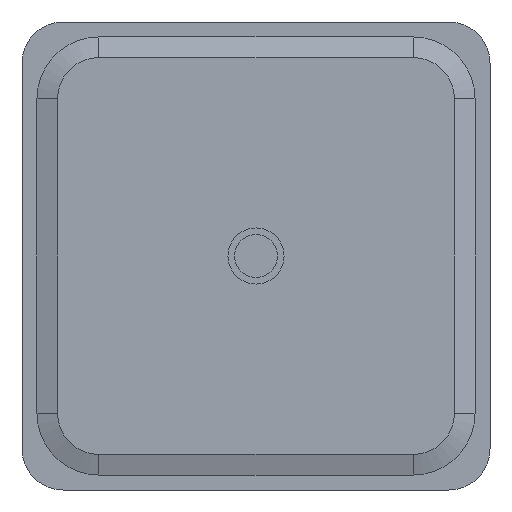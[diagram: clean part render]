
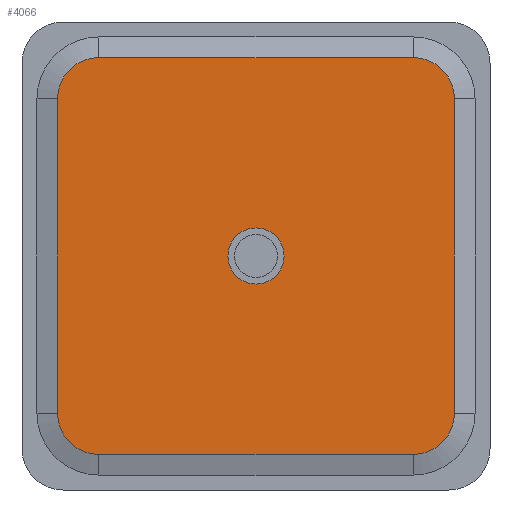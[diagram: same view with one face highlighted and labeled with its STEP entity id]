
A CAD part, front view. The second image highlights one B-rep face of the part: STEP entity #4066.
In plain terms, the highlighted planar face has unit normal (0, -1, 0).
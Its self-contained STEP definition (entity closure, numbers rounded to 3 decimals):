
#1=CARTESIAN_POINT('',(0.,0.,0.));
#2=DIRECTION('',(0.,-1.,0.));
#3=DIRECTION('',(-1.,0.,0.));
#4=AXIS2_PLACEMENT_3D('',#1,#2,#3);
#6=CARTESIAN_POINT('',(0.,0.,0.));
#7=DIRECTION('',(0.,-1.,0.));
#8=DIRECTION('',(1.,0.,0.));
#9=AXIS2_PLACEMENT_3D('',#6,#7,#8);
#11=DIRECTION('',(0.,0.,-1.));
#12=VECTOR('',#11,168.);
#13=CARTESIAN_POINT('',(-106.,0.,84.));
#14=LINE('',#13,#12);
#15=CARTESIAN_POINT('',(-84.,0.,84.));
#16=DIRECTION('',(0.,-1.,0.));
#17=DIRECTION('',(0.,0.,1.));
#18=AXIS2_PLACEMENT_3D('',#15,#16,#17);
#20=DIRECTION('',(-1.,0.,0.));
#21=VECTOR('',#20,168.);
#22=CARTESIAN_POINT('',(84.,0.,106.));
#23=LINE('',#22,#21);
#24=CARTESIAN_POINT('',(84.,0.,84.));
#25=DIRECTION('',(0.,-1.,0.));
#26=DIRECTION('',(1.,0.,0.));
#27=AXIS2_PLACEMENT_3D('',#24,#25,#26);
#29=DIRECTION('',(0.,0.,1.));
#30=VECTOR('',#29,168.);
#31=CARTESIAN_POINT('',(106.,0.,-84.));
#32=LINE('',#31,#30);
#33=CARTESIAN_POINT('',(84.,0.,-84.));
#34=DIRECTION('',(0.,-1.,0.));
#35=DIRECTION('',(0.,0.,-1.));
#36=AXIS2_PLACEMENT_3D('',#33,#34,#35);
#38=DIRECTION('',(1.,0.,0.));
#39=VECTOR('',#38,168.);
#40=CARTESIAN_POINT('',(-84.,0.,-106.));
#41=LINE('',#40,#39);
#42=CARTESIAN_POINT('',(-84.,0.,-84.));
#43=DIRECTION('',(0.,-1.,0.));
#44=DIRECTION('',(-1.,0.,0.));
#45=AXIS2_PLACEMENT_3D('',#42,#43,#44);
#3185=CARTESIAN_POINT('',(-15.,0.,0.));
#3186=CARTESIAN_POINT('',(15.,0.,0.));
#3187=VERTEX_POINT('',#3185);
#3188=VERTEX_POINT('',#3186);
#3205=CARTESIAN_POINT('',(-106.,0.,84.));
#3206=CARTESIAN_POINT('',(-106.,0.,-84.));
#3207=VERTEX_POINT('',#3205);
#3208=VERTEX_POINT('',#3206);
#3209=CARTESIAN_POINT('',(-84.,0.,-106.));
#3210=VERTEX_POINT('',#3209);
#3211=CARTESIAN_POINT('',(84.,0.,-106.));
#3212=VERTEX_POINT('',#3211);
#3213=CARTESIAN_POINT('',(106.,0.,-84.));
#3214=VERTEX_POINT('',#3213);
#3215=CARTESIAN_POINT('',(106.,0.,84.));
#3216=VERTEX_POINT('',#3215);
#3217=CARTESIAN_POINT('',(84.,0.,106.));
#3218=VERTEX_POINT('',#3217);
#3219=CARTESIAN_POINT('',(-84.,0.,106.));
#3220=VERTEX_POINT('',#3219);
#4037=CARTESIAN_POINT('',(0.,0.,0.));
#4038=DIRECTION('',(0.,1.,0.));
#4039=DIRECTION('',(1.,0.,0.));
#4040=AXIS2_PLACEMENT_3D('',#4037,#4038,#4039);
#4041=PLANE('',#4040);
#4043=ORIENTED_EDGE('',*,*,#4042,.F.);
#4045=ORIENTED_EDGE('',*,*,#4044,.F.);
#4047=ORIENTED_EDGE('',*,*,#4046,.F.);
#4049=ORIENTED_EDGE('',*,*,#4048,.F.);
#4051=ORIENTED_EDGE('',*,*,#4050,.F.);
#4053=ORIENTED_EDGE('',*,*,#4052,.F.);
#4055=ORIENTED_EDGE('',*,*,#4054,.F.);
#4057=ORIENTED_EDGE('',*,*,#4056,.F.);
#4058=EDGE_LOOP('',(#4043,#4045,#4047,#4049,#4051,#4053,#4055,#4057));
#4059=FACE_OUTER_BOUND('',#4058,.F.);
#4061=ORIENTED_EDGE('',*,*,#4060,.T.);
#4063=ORIENTED_EDGE('',*,*,#4062,.T.);
#4064=EDGE_LOOP('',(#4061,#4063));
#4065=FACE_BOUND('',#4064,.F.);
#4066=ADVANCED_FACE('',(#4059,#4065),#4041,.F.);
#5=CIRCLE('',#4,15.);
#10=CIRCLE('',#9,15.);
#19=CIRCLE('',#18,22.);
#28=CIRCLE('',#27,22.);
#37=CIRCLE('',#36,22.);
#46=CIRCLE('',#45,22.);
#4042=EDGE_CURVE('',#3207,#3208,#14,.T.);
#4044=EDGE_CURVE('',#3220,#3207,#19,.T.);
#4046=EDGE_CURVE('',#3218,#3220,#23,.T.);
#4048=EDGE_CURVE('',#3216,#3218,#28,.T.);
#4050=EDGE_CURVE('',#3214,#3216,#32,.T.);
#4052=EDGE_CURVE('',#3212,#3214,#37,.T.);
#4054=EDGE_CURVE('',#3210,#3212,#41,.T.);
#4056=EDGE_CURVE('',#3208,#3210,#46,.T.);
#4060=EDGE_CURVE('',#3187,#3188,#5,.T.);
#4062=EDGE_CURVE('',#3188,#3187,#10,.T.);
